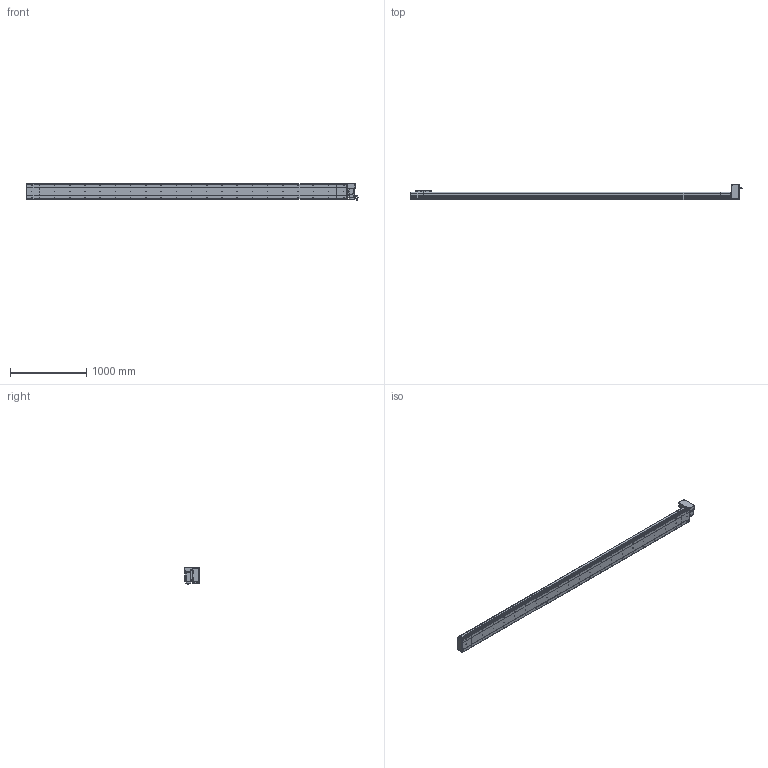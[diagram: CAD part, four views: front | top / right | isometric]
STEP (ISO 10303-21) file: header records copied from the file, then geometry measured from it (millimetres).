
FILE_DESCRIPTION (( 'STEP AP214' ), '1' );
FILE_NAME ('D20 CBH LT S3900.STEP', '2010-06-30T11:16:18', ( 'Conseil Régional Haute-Normandie' ), ( 'Conseil Régional Haute-Normandie' ), 'SwSTEP 2.0', 'SolidWorks 2010', '' );
FILE_SCHEMA (( 'AUTOMOTIVE_DESIGN' ));
Length unit declared in the file: millimetre
Products named in the file (31): vis M5 L47_Default; vis M5 L30_Default; Conecteur_Default; Chariot D20_Default; Corp D20 S3900_Default; ecrou_Default; Couvercle S3900_Default; Glissiere_Default; Tail D20+100_Default; Corp S3900_Default; Cache Support Moteur LT_Default; Support Chariot D20_Default; Plaque De Serrage D20_Default; vis M5 L15_Default; Corp Tail D20+100_Default; Couvercle_Default; Plaque de Bout Tail D20_Default; Head LT_Default; D20 CBH LT S3900; Corp Tail D20 LT_Default; Support moteur LT_Default; codeur 90BLDC125-640; Couvercle LT_Default; corps 90BLDC125A-640; avant 90BLDC125A-640; Moteur motionking 90BLDC125A-640; Rondelle Cache D20 LT_Default; Plaque De Serrage D20 LT_Default; Plaque de Bout Head D20 LT_Default; Conecteur2_Default
Assembly tree (66 placements, depth 4):
  D20 CBH LT S3900
    Tail D20+100_Default
      vis M5 L15_Default  x6
      Couvercle_Default
      Plaque De Serrage D20_Default
      Plaque de Bout Tail D20_Default
      Corp Tail D20+100_Default
    Head LT_Default
      vis M5 L15_Default  x12
      Rondelle Cache D20 LT_Default  x3
      ecrou_Default  x4
      vis M5 L30_Default  x4
      Plaque De Serrage D20 LT_Default
      Corp Tail D20 LT_Default
      Couvercle LT_Default
      Plaque de Bout Head D20 LT_Default
      vis M5 L47_Default  x4
      Support moteur LT_Default
      Cache Support Moteur LT_Default
      Moteur motionking 90BLDC125A-640
        codeur 90BLDC125-640
        corps 90BLDC125A-640
        avant 90BLDC125A-640
        Conecteur2_Default
        Conecteur_Default
    Chariot D20_Default
      vis M5 L15_Default  x8
      Glissiere_Default
      Support Chariot D20_Default
      Chariot D20_Default
    Corp D20 S3900_Default
      Corp S3900_Default
      Couvercle S3900_Default
Bounding box: 4363.45 x 202.5 x 229.7 mm (x, y, z)
Volume: 28849924 mm3; surface area: 5514997 mm2
Topology: 103 solids, 103 shells, 3876 faces, 9674 edges, 6292 vertices
Faces by surface type: plane 2131, bspline 806, cylinder 776, torus 91, cone 68, sphere 4
Entity records: 163438 total; most frequent: CARTESIAN_POINT 83686, ORIENTED_EDGE 15816, DIRECTION 12168, EDGE_CURVE 7908, VERTEX_POINT 5236, VECTOR 5024, LINE 5024, AXIS2_PLACEMENT_3D 3572
